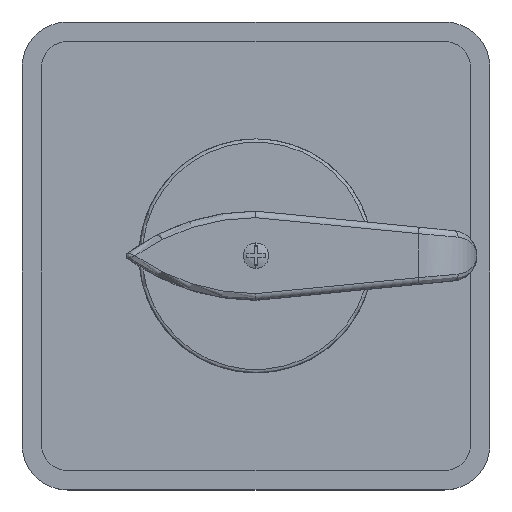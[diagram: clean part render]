
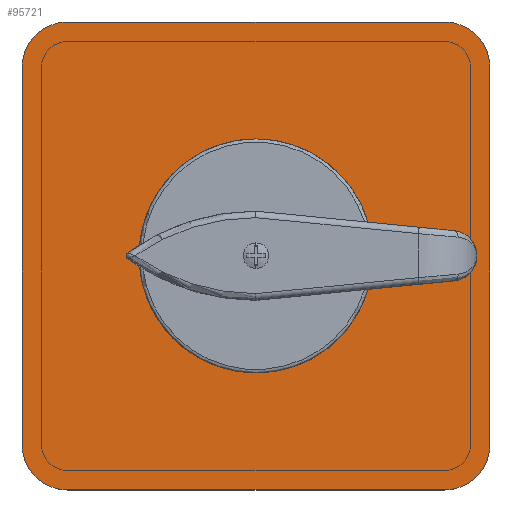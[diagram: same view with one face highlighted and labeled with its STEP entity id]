
A CAD part, top view. The second image highlights one B-rep face of the part: STEP entity #95721.
In plain terms, the highlighted planar face has unit normal (0, 0, 1).
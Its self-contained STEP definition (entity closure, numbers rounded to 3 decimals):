
#34237=CARTESIAN_POINT('',(29.,29.,3.35));
#34238=DIRECTION('',(0.,0.,1.));
#34239=DIRECTION('',(1.,0.,0.));
#34240=AXIS2_PLACEMENT_3D('',#34237,#34238,#34239);
#34242=DIRECTION('',(0.,1.,0.));
#34243=VECTOR('',#34242,58.);
#34244=CARTESIAN_POINT('',(36.,-29.,3.35));
#34245=LINE('',#34244,#34243);
#34246=CARTESIAN_POINT('',(29.,-29.,3.35));
#34247=DIRECTION('',(0.,0.,1.));
#34248=DIRECTION('',(0.,-1.,0.));
#34249=AXIS2_PLACEMENT_3D('',#34246,#34247,#34248);
#34251=DIRECTION('',(1.,0.,0.));
#34252=VECTOR('',#34251,58.);
#34253=CARTESIAN_POINT('',(-29.,-36.,3.35));
#34254=LINE('',#34253,#34252);
#34255=CARTESIAN_POINT('',(-29.,-29.,3.35));
#34256=DIRECTION('',(0.,0.,1.));
#34257=DIRECTION('',(-1.,0.,0.));
#34258=AXIS2_PLACEMENT_3D('',#34255,#34256,#34257);
#34260=DIRECTION('',(0.,-1.,0.));
#34261=VECTOR('',#34260,58.);
#34262=CARTESIAN_POINT('',(-36.,29.,3.35));
#34263=LINE('',#34262,#34261);
#34264=CARTESIAN_POINT('',(-29.,29.,3.35));
#34265=DIRECTION('',(0.,0.,1.));
#34266=DIRECTION('',(0.,1.,0.));
#34267=AXIS2_PLACEMENT_3D('',#34264,#34265,#34266);
#34269=DIRECTION('',(-1.,0.,0.));
#34270=VECTOR('',#34269,58.);
#34271=CARTESIAN_POINT('',(29.,36.,3.35));
#34272=LINE('',#34271,#34270);
#34273=DIRECTION('',(1.,0.,0.));
#34274=VECTOR('',#34273,8.);
#34275=CARTESIAN_POINT('',(-4.,4.,3.35));
#34276=LINE('',#34275,#34274);
#34285=DIRECTION('',(0.,-1.,0.));
#34286=VECTOR('',#34285,8.);
#34287=CARTESIAN_POINT('',(4.,4.,3.35));
#34288=LINE('',#34287,#34286);
#34297=DIRECTION('',(-1.,0.,0.));
#34298=VECTOR('',#34297,8.);
#34299=CARTESIAN_POINT('',(4.,-4.,3.35));
#34300=LINE('',#34299,#34298);
#34309=DIRECTION('',(0.,1.,0.));
#34310=VECTOR('',#34309,8.);
#34311=CARTESIAN_POINT('',(-4.,-4.,3.35));
#34312=LINE('',#34311,#34310);
#35160=CARTESIAN_POINT('',(0.,0.,3.35));
#35161=DIRECTION('',(0.,0.,1.));
#35162=DIRECTION('',(-0.947,0.322,0.));
#35163=AXIS2_PLACEMENT_3D('',#35160,#35161,#35162);
#35170=DIRECTION('',(-1.,0.,0.));
#35171=VECTOR('',#35170,1.727);
#35172=CARTESIAN_POINT('',(-8.52,-2.9,3.35));
#35173=LINE('',#35172,#35171);
#35195=CARTESIAN_POINT('',(0.,0.,3.35));
#35196=DIRECTION('',(0.,0.,1.));
#35197=DIRECTION('',(-0.962,0.272,0.));
#35198=AXIS2_PLACEMENT_3D('',#35195,#35196,#35197);
#35205=DIRECTION('',(1.,0.,0.));
#35206=VECTOR('',#35205,1.727);
#35207=CARTESIAN_POINT('',(-10.247,2.9,3.35));
#35208=LINE('',#35207,#35206);
#35230=CARTESIAN_POINT('',(0.,0.,3.35));
#35231=DIRECTION('',(0.,0.,1.));
#35232=DIRECTION('',(0.322,0.947,0.));
#35233=AXIS2_PLACEMENT_3D('',#35230,#35231,#35232);
#35240=DIRECTION('',(0.,1.,0.));
#35241=VECTOR('',#35240,1.727);
#35242=CARTESIAN_POINT('',(-2.9,8.52,3.35));
#35243=LINE('',#35242,#35241);
#35265=CARTESIAN_POINT('',(0.,0.,3.35));
#35266=DIRECTION('',(0.,0.,1.));
#35267=DIRECTION('',(0.272,0.962,0.));
#35268=AXIS2_PLACEMENT_3D('',#35265,#35266,#35267);
#35275=DIRECTION('',(0.,-1.,0.));
#35276=VECTOR('',#35275,1.727);
#35277=CARTESIAN_POINT('',(2.9,10.247,3.35));
#35278=LINE('',#35277,#35276);
#35300=CARTESIAN_POINT('',(0.,0.,3.35));
#35301=DIRECTION('',(0.,0.,1.));
#35302=DIRECTION('',(0.947,-0.322,0.));
#35303=AXIS2_PLACEMENT_3D('',#35300,#35301,#35302);
#35314=DIRECTION('',(1.,0.,0.));
#35315=VECTOR('',#35314,1.727);
#35316=CARTESIAN_POINT('',(8.52,2.9,3.35));
#35317=LINE('',#35316,#35315);
#35335=CARTESIAN_POINT('',(0.,0.,3.35));
#35336=DIRECTION('',(0.,0.,1.));
#35337=DIRECTION('',(0.962,-0.272,0.));
#35338=AXIS2_PLACEMENT_3D('',#35335,#35336,#35337);
#35345=DIRECTION('',(-1.,0.,0.));
#35346=VECTOR('',#35345,1.727);
#35347=CARTESIAN_POINT('',(10.247,-2.9,3.35));
#35348=LINE('',#35347,#35346);
#35370=CARTESIAN_POINT('',(0.,0.,3.35));
#35371=DIRECTION('',(0.,0.,1.));
#35372=DIRECTION('',(-0.322,-0.947,0.));
#35373=AXIS2_PLACEMENT_3D('',#35370,#35371,#35372);
#35380=DIRECTION('',(0.,-1.,0.));
#35381=VECTOR('',#35380,1.727);
#35382=CARTESIAN_POINT('',(2.9,-8.52,3.35));
#35383=LINE('',#35382,#35381);
#35405=CARTESIAN_POINT('',(0.,0.,3.35));
#35406=DIRECTION('',(0.,0.,1.));
#35407=DIRECTION('',(-0.272,-0.962,0.));
#35408=AXIS2_PLACEMENT_3D('',#35405,#35406,#35407);
#35415=DIRECTION('',(0.,1.,0.));
#35416=VECTOR('',#35415,1.727);
#35417=CARTESIAN_POINT('',(-2.9,-10.247,3.35));
#35418=LINE('',#35417,#35416);
#41159=CARTESIAN_POINT('',(36.,29.,3.35));
#41160=VERTEX_POINT('',#41159);
#41161=CARTESIAN_POINT('',(29.,36.,3.35));
#41162=VERTEX_POINT('',#41161);
#41167=CARTESIAN_POINT('',(29.,-36.,3.35));
#41168=VERTEX_POINT('',#41167);
#41169=CARTESIAN_POINT('',(36.,-29.,3.35));
#41170=VERTEX_POINT('',#41169);
#41175=CARTESIAN_POINT('',(-36.,-29.,3.35));
#41176=VERTEX_POINT('',#41175);
#41177=CARTESIAN_POINT('',(-29.,-36.,3.35));
#41178=VERTEX_POINT('',#41177);
#41183=CARTESIAN_POINT('',(-29.,36.,3.35));
#41184=VERTEX_POINT('',#41183);
#41185=CARTESIAN_POINT('',(-36.,29.,3.35));
#41186=VERTEX_POINT('',#41185);
#52083=CARTESIAN_POINT('',(-2.9,-8.52,3.35));
#52084=CARTESIAN_POINT('',(2.9,-8.52,3.35));
#52085=VERTEX_POINT('',#52083);
#52086=VERTEX_POINT('',#52084);
#52087=CARTESIAN_POINT('',(8.52,-2.9,3.35));
#52088=CARTESIAN_POINT('',(8.52,2.9,3.35));
#52089=VERTEX_POINT('',#52087);
#52090=VERTEX_POINT('',#52088);
#52091=CARTESIAN_POINT('',(2.9,8.52,3.35));
#52092=CARTESIAN_POINT('',(-2.9,8.52,3.35));
#52093=VERTEX_POINT('',#52091);
#52094=VERTEX_POINT('',#52092);
#52095=CARTESIAN_POINT('',(-8.52,2.9,3.35));
#52096=CARTESIAN_POINT('',(-8.52,-2.9,3.35));
#52097=VERTEX_POINT('',#52095);
#52098=VERTEX_POINT('',#52096);
#52115=CARTESIAN_POINT('',(10.247,-2.9,3.35));
#52116=VERTEX_POINT('',#52115);
#52119=CARTESIAN_POINT('',(10.247,2.9,3.35));
#52120=VERTEX_POINT('',#52119);
#52123=CARTESIAN_POINT('',(2.9,10.247,3.35));
#52124=VERTEX_POINT('',#52123);
#52127=CARTESIAN_POINT('',(-2.9,10.247,3.35));
#52128=VERTEX_POINT('',#52127);
#52131=CARTESIAN_POINT('',(-10.247,2.9,3.35));
#52132=VERTEX_POINT('',#52131);
#52135=CARTESIAN_POINT('',(-10.247,-2.9,3.35));
#52136=VERTEX_POINT('',#52135);
#52139=CARTESIAN_POINT('',(-2.9,-10.247,3.35));
#52140=VERTEX_POINT('',#52139);
#52143=CARTESIAN_POINT('',(2.9,-10.247,3.35));
#52144=VERTEX_POINT('',#52143);
#52147=CARTESIAN_POINT('',(-4.,4.,3.35));
#52148=CARTESIAN_POINT('',(4.,4.,3.35));
#52149=VERTEX_POINT('',#52147);
#52150=VERTEX_POINT('',#52148);
#52155=CARTESIAN_POINT('',(4.,-4.,3.35));
#52156=VERTEX_POINT('',#52155);
#52159=CARTESIAN_POINT('',(-4.,-4.,3.35));
#52160=VERTEX_POINT('',#52159);
#95656=CARTESIAN_POINT('',(0.,0.,3.35));
#95657=DIRECTION('',(0.,0.,1.));
#95658=DIRECTION('',(1.,0.,0.));
#95659=AXIS2_PLACEMENT_3D('',#95656,#95657,#95658);
#95660=PLANE('',#95659);
#95661=ORIENTED_EDGE('',*,*,#95552,.F.);
#95662=ORIENTED_EDGE('',*,*,#95568,.F.);
#95663=ORIENTED_EDGE('',*,*,#95581,.F.);
#95664=ORIENTED_EDGE('',*,*,#95596,.F.);
#95665=ORIENTED_EDGE('',*,*,#95609,.F.);
#95666=ORIENTED_EDGE('',*,*,#95624,.F.);
#95667=ORIENTED_EDGE('',*,*,#95637,.F.);
#95668=ORIENTED_EDGE('',*,*,#95649,.F.);
#95669=EDGE_LOOP('',(#95661,#95662,#95663,#95664,#95665,#95666,#95667,#95668));
#95670=FACE_OUTER_BOUND('',#95669,.F.);
#95672=ORIENTED_EDGE('',*,*,#95671,.F.);
#95674=ORIENTED_EDGE('',*,*,#95673,.F.);
#95676=ORIENTED_EDGE('',*,*,#95675,.F.);
#95678=ORIENTED_EDGE('',*,*,#95677,.F.);
#95679=EDGE_LOOP('',(#95672,#95674,#95676,#95678));
#95680=FACE_BOUND('',#95679,.F.);
#95682=ORIENTED_EDGE('',*,*,#95681,.F.);
#95684=ORIENTED_EDGE('',*,*,#95683,.F.);
#95686=ORIENTED_EDGE('',*,*,#95685,.T.);
#95688=ORIENTED_EDGE('',*,*,#95687,.F.);
#95689=EDGE_LOOP('',(#95682,#95684,#95686,#95688));
#95690=FACE_BOUND('',#95689,.F.);
#95692=ORIENTED_EDGE('',*,*,#95691,.F.);
#95694=ORIENTED_EDGE('',*,*,#95693,.F.);
#95696=ORIENTED_EDGE('',*,*,#95695,.T.);
#95698=ORIENTED_EDGE('',*,*,#95697,.F.);
#95699=EDGE_LOOP('',(#95692,#95694,#95696,#95698));
#95700=FACE_BOUND('',#95699,.F.);
#95702=ORIENTED_EDGE('',*,*,#95701,.F.);
#95704=ORIENTED_EDGE('',*,*,#95703,.F.);
#95706=ORIENTED_EDGE('',*,*,#95705,.T.);
#95708=ORIENTED_EDGE('',*,*,#95707,.F.);
#95709=EDGE_LOOP('',(#95702,#95704,#95706,#95708));
#95710=FACE_BOUND('',#95709,.F.);
#95712=ORIENTED_EDGE('',*,*,#95711,.F.);
#95714=ORIENTED_EDGE('',*,*,#95713,.F.);
#95716=ORIENTED_EDGE('',*,*,#95715,.T.);
#95718=ORIENTED_EDGE('',*,*,#95717,.F.);
#95719=EDGE_LOOP('',(#95712,#95714,#95716,#95718));
#95720=FACE_BOUND('',#95719,.F.);
#95721=ADVANCED_FACE('',(#95670,#95680,#95690,#95700,#95710,#95720),#95660,.T.);
#34241=CIRCLE('',#34240,7.);
#34250=CIRCLE('',#34249,7.);
#34259=CIRCLE('',#34258,7.);
#34268=CIRCLE('',#34267,7.);
#35164=CIRCLE('',#35163,9.);
#35199=CIRCLE('',#35198,10.65);
#35234=CIRCLE('',#35233,9.);
#35269=CIRCLE('',#35268,10.65);
#35304=CIRCLE('',#35303,9.);
#35339=CIRCLE('',#35338,10.65);
#35374=CIRCLE('',#35373,9.);
#35409=CIRCLE('',#35408,10.65);
#95552=EDGE_CURVE('',#41160,#41162,#34241,.T.);
#95568=EDGE_CURVE('',#41170,#41160,#34245,.T.);
#95581=EDGE_CURVE('',#41168,#41170,#34250,.T.);
#95596=EDGE_CURVE('',#41178,#41168,#34254,.T.);
#95609=EDGE_CURVE('',#41176,#41178,#34259,.T.);
#95624=EDGE_CURVE('',#41186,#41176,#34263,.T.);
#95637=EDGE_CURVE('',#41184,#41186,#34268,.T.);
#95649=EDGE_CURVE('',#41162,#41184,#34272,.T.);
#95671=EDGE_CURVE('',#52149,#52150,#34276,.T.);
#95673=EDGE_CURVE('',#52160,#52149,#34312,.T.);
#95675=EDGE_CURVE('',#52156,#52160,#34300,.T.);
#95677=EDGE_CURVE('',#52150,#52156,#34288,.T.);
#95681=EDGE_CURVE('',#52097,#52098,#35164,.T.);
#95683=EDGE_CURVE('',#52132,#52097,#35208,.T.);
#95685=EDGE_CURVE('',#52132,#52136,#35199,.T.);
#95687=EDGE_CURVE('',#52098,#52136,#35173,.T.);
#95691=EDGE_CURVE('',#52093,#52094,#35234,.T.);
#95693=EDGE_CURVE('',#52124,#52093,#35278,.T.);
#95695=EDGE_CURVE('',#52124,#52128,#35269,.T.);
#95697=EDGE_CURVE('',#52094,#52128,#35243,.T.);
#95701=EDGE_CURVE('',#52089,#52090,#35304,.T.);
#95703=EDGE_CURVE('',#52116,#52089,#35348,.T.);
#95705=EDGE_CURVE('',#52116,#52120,#35339,.T.);
#95707=EDGE_CURVE('',#52090,#52120,#35317,.T.);
#95711=EDGE_CURVE('',#52085,#52086,#35374,.T.);
#95713=EDGE_CURVE('',#52140,#52085,#35418,.T.);
#95715=EDGE_CURVE('',#52140,#52144,#35409,.T.);
#95717=EDGE_CURVE('',#52086,#52144,#35383,.T.);
